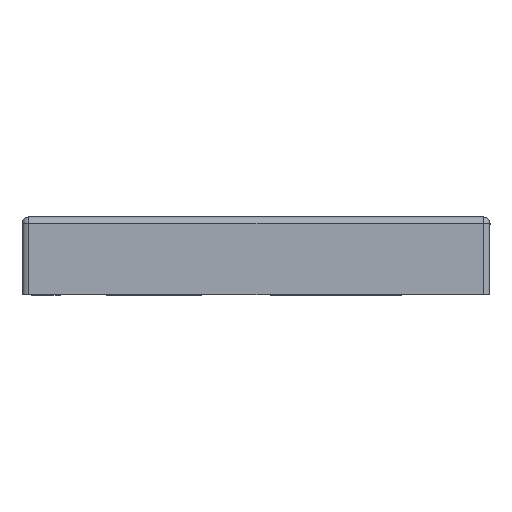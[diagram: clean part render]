
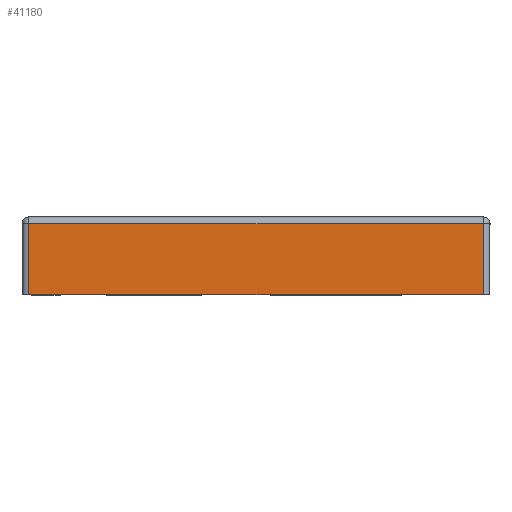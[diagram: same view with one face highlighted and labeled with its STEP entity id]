
A CAD part, left-side view. The second image highlights one B-rep face of the part: STEP entity #41180.
In plain terms, the highlighted planar face has unit normal (-1, 0, 0).
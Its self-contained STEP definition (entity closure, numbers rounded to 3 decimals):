
#264 = EDGE_CURVE ( 'NONE', #17942, #19953, #9820, .T. ) ;
#834 = VECTOR ( 'NONE', #43005, 1000. ) ;
#1390 = EDGE_CURVE ( 'NONE', #39884, #17942, #42003, .T. ) ;
#1627 = CARTESIAN_POINT ( 'NONE',  ( -21.181, 78.681, 117.822 ) ) ;
#4557 = CARTESIAN_POINT ( 'NONE',  ( -21.181, 164.181, 102.322 ) ) ;
#4992 = AXIS2_PLACEMENT_3D ( 'NONE', #14202, #38672, #31518 ) ;
#5750 = VECTOR ( 'NONE', #20786, 1000. ) ;
#7194 = CARTESIAN_POINT ( 'NONE',  ( -21.181, 78.681, 102.322 ) ) ;
#9820 = LINE ( 'NONE', #7194, #26761 ) ;
#9897 = FACE_OUTER_BOUND ( 'NONE', #16976, .T. ) ;
#10249 = PLANE ( 'NONE',  #4992 ) ;
#10918 = CARTESIAN_POINT ( 'NONE',  ( -21.181, 164.181, 117.822 ) ) ;
#11607 = ORIENTED_EDGE ( 'NONE', *, *, #20953, .T. ) ;
#11963 = EDGE_CURVE ( 'NONE', #39884, #21607, #13380, .T. ) ;
#13380 = LINE ( 'NONE', #1627, #834 ) ;
#13573 = CARTESIAN_POINT ( 'NONE',  ( -21.181, 65.181, 102.322 ) ) ;
#14202 = CARTESIAN_POINT ( 'NONE',  ( -21.181, 63.681, 102.322 ) ) ;
#15748 = VECTOR ( 'NONE', #35229, 1000. ) ;
#16325 = ORIENTED_EDGE ( 'NONE', *, *, #1390, .T. ) ;
#16976 = EDGE_LOOP ( 'NONE', ( #33604, #16325, #23362, #11607 ) ) ;
#17264 = CARTESIAN_POINT ( 'NONE',  ( -21.181, 65.181, 102.322 ) ) ;
#17942 = VERTEX_POINT ( 'NONE', #4557 ) ;
#19953 = VERTEX_POINT ( 'NONE', #13573 ) ;
#20786 = DIRECTION ( 'NONE',  ( 0., 0., 1. ) ) ;
#20953 = EDGE_CURVE ( 'NONE', #19953, #21607, #24849, .T. ) ;
#21262 = DIRECTION ( 'NONE',  ( 0., -1., 0. ) ) ;
#21445 = CARTESIAN_POINT ( 'NONE',  ( -21.181, 164.181, 102.322 ) ) ;
#21607 = VERTEX_POINT ( 'NONE', #22714 ) ;
#22714 = CARTESIAN_POINT ( 'NONE',  ( -21.181, 65.181, 117.822 ) ) ;
#23362 = ORIENTED_EDGE ( 'NONE', *, *, #264, .T. ) ;
#24849 = LINE ( 'NONE', #17264, #5750 ) ;
#26761 = VECTOR ( 'NONE', #21262, 1000. ) ;
#31518 = DIRECTION ( 'NONE',  ( 0., 0., 1. ) ) ;
#33604 = ORIENTED_EDGE ( 'NONE', *, *, #11963, .F. ) ;
#35229 = DIRECTION ( 'NONE',  ( 0., 0., -1. ) ) ;
#38672 = DIRECTION ( 'NONE',  ( -1., 0., 0. ) ) ;
#39884 = VERTEX_POINT ( 'NONE', #10918 ) ;
#41180 = ADVANCED_FACE ( 'NONE', ( #9897 ), #10249, .T. ) ;
#42003 = LINE ( 'NONE', #21445, #15748 ) ;
#43005 = DIRECTION ( 'NONE',  ( 0., -1., 0. ) ) ;
